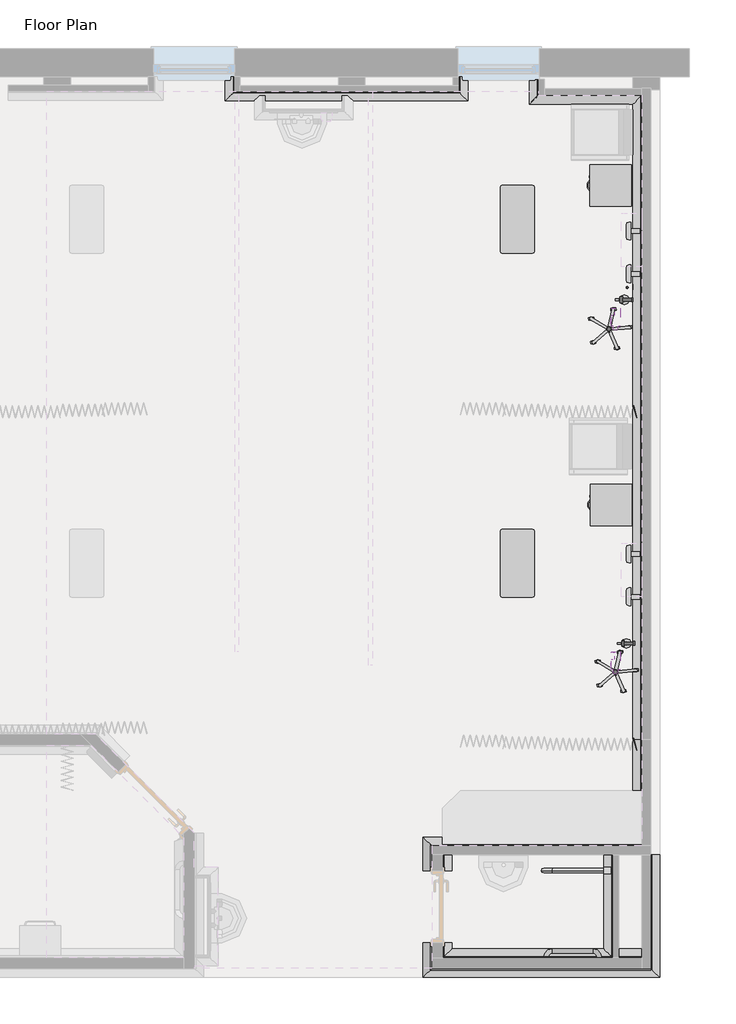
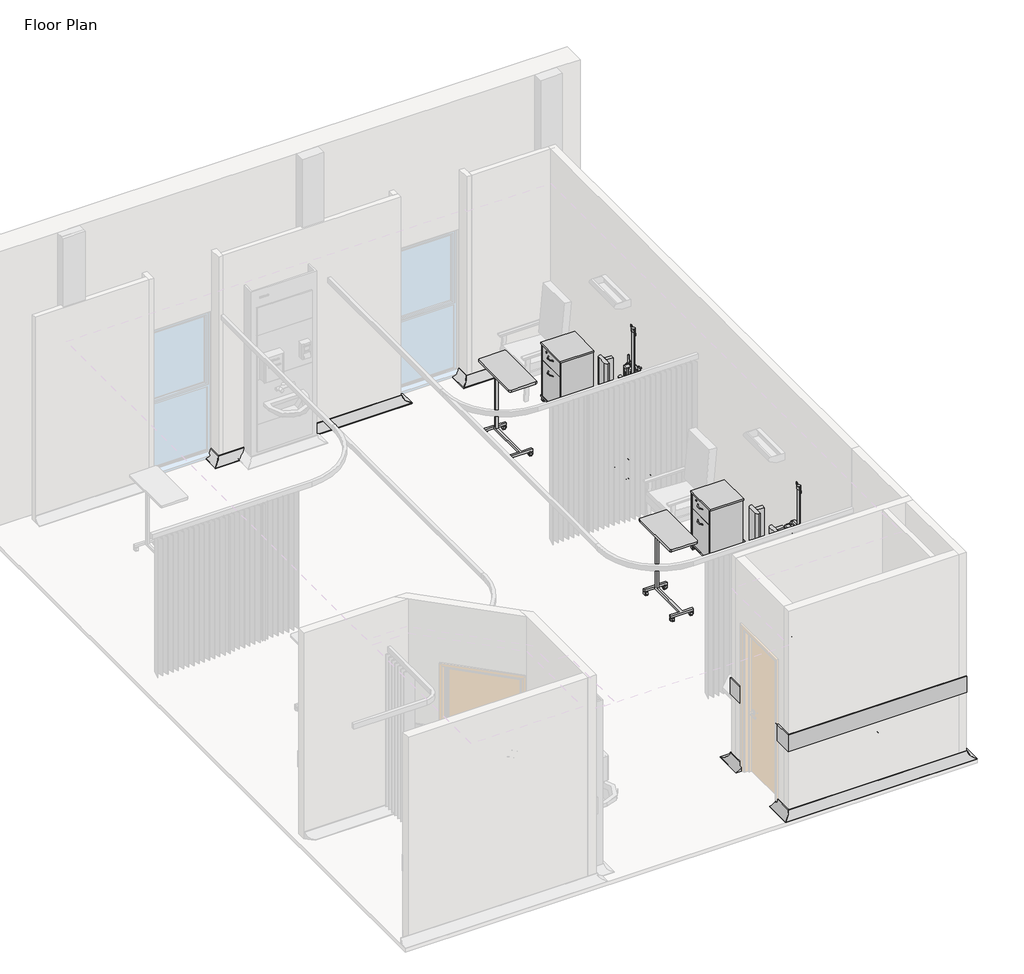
# One storey, part 3 of 3: 33 proxies.
"""IFC4 building model written with IfcOpenShell, lengths in millimetres."""

from ifc_helpers import new_model, si_unit, point, frame, frame_2d, origin, place, context, project, spatial, polyline, circle_curve, ellipse_curve, trimmed, segment, composite_curve, outline, extrude, transform, mapped, element, save
from ifc_brep_helpers import plane_surface, revolved_surface, advanced_brep
from components import generic_models_eee01dc3, generic_models_69a9413b, generic_models_23b3e7a1, generic_models_51914271, generic_models_60647dcf, generic_models_1c4e6ef4, generic_models_79982e2d, type_1_5029713c, type_1_b87888fc

model = new_model("IFC4")

# Units and contexts
model_context = context("Model", 3, world=origin())
ifc_project = project(units=[si_unit("LENGTHUNIT", "METRE", prefix="MILLI")], contexts=[model_context])

# Site, building, storey
site = spatial("IfcSite", under=ifc_project)
building = spatial("IfcBuilding", under=site)
storey = spatial("IfcBuildingStorey", under=building, Name="Floor Plan", Elevation=0.0)

# Proxies
placement = place(None, origin())
element("IfcBuildingElementProxy", 1, Name="Wall Sweeps", at=placement, inside=storey, context=model_context, shape_type="AdvancedBrep", body=[
    advanced_brep(
    [(46529.4797081, 118.6795604, 0.0), (46429.4797081, 118.6795604, 0.0), (46429.4797081, 118.6795604, 10.0), (46519.4797081, 118.6795604, 100.0), (46529.4797081, 118.6795604, 100.0), (46529.4797081, -49.8204396, 0.0), (46529.4797081, -49.8204396, 100.0), (46519.4797081, -59.8204396, 100.0), (46429.4797081, -149.8204396, 10.0), (46429.4797081, -149.8204396, 0.0)],
    [
        (0, 1),
        (1, 2),
        (2, 3, circle_curve(frame((46429.4797081, 118.6795604, 100.0), z_axis=(0.0, -1.0, 0.0), x_axis=(-1.0, 0.0, 0.0)), 90.0)),
        (3, 4),
        (4, 0),
        (5, 6),
        (6, 7),
        (7, 8, ellipse_curve(frame((46429.4797081, -149.8204396, 100.0), z_axis=(-0.7071067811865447, 0.7071067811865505, 0.0), x_axis=(-0.7071067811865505, -0.7071067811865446, 0.0)), 127.2792206, 90.0)),
        (8, 9),
        (9, 5),
        (0, 5),
        (9, 1),
        (8, 2),
        (7, 3),
        (6, 4),
    ],
    [
        plane_surface(frame((46428.9809518, 118.6795604, 0.0), z_axis=(0.0, 1.0, 0.0), x_axis=(0.0, 0.0, -1.0))),
        plane_surface(frame((46529.4797081, -49.8204396, -304.8), z_axis=(0.7071067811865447, -0.7071067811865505, 0.0), x_axis=(0.7071067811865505, 0.7071067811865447, 0.0))),
        plane_surface(frame((46529.4797081, 118.6795604, 0.0), z_axis=(0.0, 0.0, -1.0), x_axis=(0.0, -1.0, 0.0))),
        plane_surface(frame((46429.4797081, 118.6795604, 0.0), z_axis=(-1.0, 0.0, 0.0), x_axis=(0.0, -1.0, 0.0))),
        revolved_surface(polyline([(46339.4797081, -239.8204395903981, 100.0), (46339.4797081, 118.6795604, 100.0)]), (46429.4797081, 118.6795604, 100.0), (0.0, -1.0, 0.0)),
        plane_surface(frame((46519.4797081, 118.6795604, 100.0), z_axis=(0.0, 0.0, 1.0), x_axis=(0.0, -1.0, 0.0))),
        plane_surface(frame((46529.4797081, 118.6795604, 100.0), z_axis=(1.0, 0.0, 0.0), x_axis=(0.0, -1.0, 0.0))),
    ],
    [
        (0, [[1, 2, 3, 4, 5]]),
        (1, [[6, 7, 8, 9, 10]]),
        (2, [[-1, 11, -10, 12]]),
        (3, [[-2, -12, -9, 13]]),
        (4, [[-3, -13, -8, 14]]),
        (5, [[-4, -14, -7, 15]]),
        (6, [[-5, -15, -6, -11]]),
    ],
),
])
element("IfcBuildingElementProxy", 2, Name="Wall Sweeps", at=placement, inside=storey, context=model_context, shape_type="AdvancedBrep", body=[
    advanced_brep(
    [(46529.4797081, -49.8204396, 0.0), (46429.4797081, -149.8204396, 0.0), (46429.4797081, -149.8204396, 10.0), (46519.4797081, -59.8204396, 100.0), (46529.4797081, -49.8204396, 100.0), (49049.3271707, -49.8204396, 0.0), (49049.3271707, -49.8204396, 100.0), (49059.3271707, -59.8204396, 100.0), (49149.3271707, -149.8204396, 10.0), (49149.3271707, -149.8204396, 0.0), (46597.9797081, -49.8204396, 0.0)],
    [
        (0, 1),
        (1, 2),
        (2, 3, ellipse_curve(frame((46429.4797081, -149.8204396, 100.0), z_axis=(0.7071067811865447, -0.7071067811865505, 0.0), x_axis=(0.7071067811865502, 0.7071067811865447, 0.0)), 127.2792206, 90.0)),
        (3, 4),
        (4, 0),
        (5, 6),
        (6, 7),
        (7, 8, ellipse_curve(frame((49149.3271707, -149.8204396, 100.0), z_axis=(-0.7071067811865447, -0.7071067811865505, 0.0), x_axis=(0.7071067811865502, -0.7071067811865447, 0.0)), 127.2792206, 90.0)),
        (8, 9),
        (9, 5),
        (0, 10),
        (10, 5),
        (9, 1),
        (8, 2),
        (7, 3),
        (6, 4),
    ],
    [
        plane_surface(frame((46529.4797081, -49.8204396, -304.8), z_axis=(-0.7071067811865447, 0.7071067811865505, 0.0), x_axis=(0.7071067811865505, 0.7071067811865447, 0.0))),
        plane_surface(frame((49049.3271707, -49.8204396, -304.8), z_axis=(0.7071067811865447, 0.7071067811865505, 0.0), x_axis=(-0.7071067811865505, 0.7071067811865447, 0.0))),
        plane_surface(frame((46529.4797081, -49.8204396, 0.0), z_axis=(0.0, 0.0, -1.0), x_axis=(1.0, 0.0, 0.0))),
        plane_surface(frame((46429.4797081, -149.8204396, 0.0), z_axis=(0.0, -1.0, 0.0), x_axis=(1.0, 0.0, 0.0))),
        revolved_surface(polyline([(49239.3271706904, -239.8204396, 100.0), (46339.479708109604, -239.8204396, 100.0)]), (46529.4797081, -149.8204396, 100.0), (1.0, 0.0, 0.0)),
        plane_surface(frame((46519.4797081, -59.8204396, 100.0), z_axis=(0.0, 0.0, 1.0), x_axis=(1.0, 0.0, 0.0))),
        plane_surface(frame((46529.4797081, -49.8204396, 100.0), z_axis=(0.0, 1.0, 0.0), x_axis=(1.0, 0.0, 0.0))),
    ],
    [
        (0, [[1, 2, 3, 4, 5]]),
        (1, [[6, 7, 8, 9, 10]]),
        (2, [[-1, 11, 12, -10, 13]]),
        (3, [[-2, -13, -9, 14]]),
        (4, [[-3, -14, -8, 15]]),
        (5, [[-4, -15, -7, 16]]),
        (6, [[-5, -16, -6, -12, -11]]),
    ],
),
])
element("IfcBuildingElementProxy", 3, Name="Wall Sweeps", at=placement, inside=storey, context=model_context, shape_type="AdvancedBrep", body=[
    advanced_brep(
    [(49049.3271707, -49.8204396, 0.0), (49149.3271707, -149.8204396, 0.0), (49149.3271707, -149.8204396, 10.0), (49059.3271707, -59.8204396, 100.0), (49049.3271707, -49.8204396, 100.0), (49049.3271707, 118.6795604, 0.0), (49049.3271707, 118.6795604, 100.0), (49059.3271707, 118.6795604, 100.0), (49149.3271707, 118.6795604, 10.0), (49149.3271707, 118.6795604, 0.0), (49049.3271707, 18.6795604, 0.0)],
    [
        (0, 1),
        (1, 2),
        (2, 3, ellipse_curve(frame((49149.3271707, -149.8204396, 100.0), z_axis=(0.7071067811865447, 0.7071067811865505, 0.0), x_axis=(-0.7071067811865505, 0.7071067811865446, 0.0)), 127.2792206, 90.0)),
        (3, 4),
        (4, 0),
        (5, 6),
        (6, 7),
        (7, 8, circle_curve(frame((49149.3271707, 118.6795604, 100.0), z_axis=(0.0, -1.0, 0.0), x_axis=(1.0, 0.0, 0.0)), 90.0)),
        (8, 9),
        (9, 5),
        (0, 10),
        (10, 5),
        (9, 1),
        (8, 2),
        (7, 3),
        (6, 4),
    ],
    [
        plane_surface(frame((49049.3271707, -49.8204396, -304.8), z_axis=(-0.7071067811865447, -0.7071067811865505, 0.0), x_axis=(-0.7071067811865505, 0.7071067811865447, 0.0))),
        plane_surface(frame((48948.8284145, 118.6795604, 0.0), z_axis=(0.0, 1.0, 0.0), x_axis=(0.0, 0.0, 1.0))),
        plane_surface(frame((49049.3271707, -49.8204396, 0.0), z_axis=(0.0, 0.0, -1.0), x_axis=(0.0, 1.0, 0.0))),
        plane_surface(frame((49149.3271707, -149.8204396, 0.0), z_axis=(1.0, 0.0, 0.0), x_axis=(0.0, 1.0, 0.0))),
        revolved_surface(polyline([(49239.3271707, 118.6795604, 100.0), (49239.3271707, -239.8204395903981, 100.0)]), (49149.3271707, -49.8204396, 100.0), (0.0, 1.0, 0.0)),
        plane_surface(frame((49059.3271707, -59.8204396, 100.0), z_axis=(0.0, 0.0, 1.0), x_axis=(0.0, 1.0, 0.0))),
        plane_surface(frame((49049.3271707, -49.8204396, 100.0), z_axis=(-1.0, 0.0, 0.0), x_axis=(0.0, 1.0, 0.0))),
    ],
    [
        (0, [[1, 2, 3, 4, 5]]),
        (1, [[6, 7, 8, 9, 10]]),
        (2, [[-1, 11, 12, -10, 13]]),
        (3, [[-2, -13, -9, 14]]),
        (4, [[-3, -14, -8, 15]]),
        (5, [[-4, -15, -7, 16]]),
        (6, [[-5, -16, -6, -12, -11]]),
    ],
),
])
element("IfcBuildingElementProxy", 4, Name="Wall Sweeps", at=placement, inside=storey, context=model_context, shape_type="AdvancedBrep", body=[
    advanced_brep(
    [(49939.4797081, 87.4295604, 0.0), (49839.4797081, 87.4295604, 0.0), (49839.4797081, 87.4295604, 10.0), (49929.4797081, 87.4295604, 100.0), (49939.4797081, 87.4295604, 100.0), (49939.4797081, -86.8204396, 0.0), (49939.4797081, -86.8204396, 100.0), (49929.4797081, -96.8204396, 100.0), (49839.4797081, -186.8204396, 10.0), (49839.4797081, -186.8204396, 0.0)],
    [
        (0, 1),
        (1, 2),
        (2, 3, circle_curve(frame((49839.4797081, 87.4295604, 100.0), z_axis=(0.0, -1.0, 0.0), x_axis=(-1.0, 0.0, 0.0)), 90.0)),
        (3, 4),
        (4, 0),
        (5, 6),
        (6, 7),
        (7, 8, ellipse_curve(frame((49839.4797081, -186.8204396, 100.0), z_axis=(-0.7071067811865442, 0.7071067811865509, 0.0), x_axis=(-0.7071067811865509, -0.707106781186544, 0.0)), 127.2792206, 90.0)),
        (8, 9),
        (9, 5),
        (0, 5),
        (9, 1),
        (8, 2),
        (7, 3),
        (6, 4),
    ],
    [
        plane_surface(frame((49838.9809518, 87.4295604, 0.0), z_axis=(0.0, 1.0, 0.0), x_axis=(0.0, 0.0, -1.0))),
        plane_surface(frame((49939.4797081, -86.8204396, -304.8), z_axis=(0.7071067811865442, -0.7071067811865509, 0.0), x_axis=(0.7071067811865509, 0.7071067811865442, 0.0))),
        plane_surface(frame((49939.4797081, 87.4295604, 0.0), z_axis=(0.0, 0.0, -1.0), x_axis=(0.0, -1.0, 0.0))),
        plane_surface(frame((49839.4797081, 87.4295604, 0.0), z_axis=(-1.0, 0.0, 0.0), x_axis=(0.0, -1.0, 0.0))),
        revolved_surface(polyline([(49749.4797081, -276.82043959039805, 100.0), (49749.4797081, 87.4295604, 100.0)]), (49839.4797081, 87.4295604, 100.0), (0.0, -1.0, 0.0)),
        plane_surface(frame((49929.4797081, 87.4295604, 100.0), z_axis=(0.0, 0.0, 1.0), x_axis=(0.0, -1.0, 0.0))),
        plane_surface(frame((49939.4797081, 87.4295604, 100.0), z_axis=(1.0, 0.0, 0.0), x_axis=(0.0, -1.0, 0.0))),
    ],
    [
        (0, [[1, 2, 3, 4, 5]]),
        (1, [[6, 7, 8, 9, 10]]),
        (2, [[-1, 11, -10, 12]]),
        (3, [[-2, -12, -9, 13]]),
        (4, [[-3, -13, -8, 14]]),
        (5, [[-4, -14, -7, 15]]),
        (6, [[-5, -15, -6, -11]]),
    ],
),
])
element("IfcBuildingElementProxy", 5, Name="Wall Sweeps", at=placement, inside=storey, context=model_context, shape_type="AdvancedBrep", body=[
    advanced_brep(
    [(49939.4797081, -86.8204396, 0.0), (49839.4797081, -186.8204396, 0.0), (49839.4797081, -186.8204396, 10.0), (49929.4797081, -96.8204396, 100.0), (49939.4797081, -86.8204396, 100.0), (51148.7297081, -86.8204396, 0.0), (51148.7297081, -86.8204396, 100.0), (51148.7297081, -96.8204396, 100.0), (51148.7297081, -186.8204396, 10.0), (51148.7297081, -186.8204396, 0.0), (50007.9797081, -86.8204396, 0.0)],
    [
        (0, 1),
        (1, 2),
        (2, 3, ellipse_curve(frame((49839.4797081, -186.8204396, 100.0), z_axis=(0.7071067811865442, -0.7071067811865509, 0.0), x_axis=(0.7071067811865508, 0.7071067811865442, 0.0)), 127.2792206, 90.0)),
        (3, 4),
        (4, 0),
        (5, 6),
        (6, 7),
        (7, 8, circle_curve(frame((51148.7297081, -186.8204396, 100.0), z_axis=(-1.0, 0.0, 0.0), x_axis=(0.0, -1.0, 0.0)), 90.0)),
        (8, 9),
        (9, 5),
        (0, 10),
        (10, 5),
        (9, 1),
        (8, 2),
        (7, 3),
        (6, 4),
    ],
    [
        plane_surface(frame((49939.4797081, -86.8204396, -304.8), z_axis=(-0.7071067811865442, 0.7071067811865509, 0.0), x_axis=(0.7071067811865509, 0.7071067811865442, 0.0))),
        plane_surface(frame((51148.7297081, -86.8204396, -100.4987562), z_axis=(1.0, 0.0, 0.0), x_axis=(0.0, 1.0, 0.0))),
        plane_surface(frame((49939.4797081, -86.8204396, 0.0), z_axis=(0.0, 0.0, -1.0), x_axis=(1.0, 0.0, 0.0))),
        plane_surface(frame((49839.4797081, -186.8204396, 0.0), z_axis=(0.0, -1.0, 0.0), x_axis=(1.0, 0.0, 0.0))),
        revolved_surface(polyline([(51148.7297081, -276.8204396, 100.0), (49749.479708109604, -276.8204396, 100.0)]), (49939.4797081, -186.8204396, 100.0), (1.0, 0.0, 0.0)),
        plane_surface(frame((49929.4797081, -96.8204396, 100.0), z_axis=(0.0, 0.0, 1.0), x_axis=(1.0, 0.0, 0.0))),
        plane_surface(frame((49939.4797081, -86.8204396, 100.0), z_axis=(0.0, 1.0, 0.0), x_axis=(1.0, 0.0, 0.0))),
    ],
    [
        (0, [[1, 2, 3, 4, 5]]),
        (1, [[6, 7, 8, 9, 10]]),
        (2, [[-1, 11, 12, -10, 13]]),
        (3, [[-2, -13, -9, 14]]),
        (4, [[-3, -14, -8, 15]]),
        (5, [[-4, -15, -7, 16]]),
        (6, [[-5, -16, -6, -12, -11]]),
    ],
),
])
element("IfcBuildingElementProxy", 6, Name="Wall Sweeps", at=placement, inside=storey, context=model_context, shape_type="AdvancedBrep", body=[
    advanced_brep(
    [(51098.7297081, -7304.3204396, 0.0), (50998.7297081, -7304.3204396, 0.0), (50998.7297081, -7304.3204396, 10.0), (51088.7297081, -7304.3204396, 100.0), (51098.7297081, -7304.3204396, 100.0), (51098.7297081, -8493.5704396, 0.0), (51098.7297081, -8493.5704396, 100.0), (51088.7297081, -8493.5704396, 100.0), (50998.7297081, -8493.5704396, 10.0), (50998.7297081, -8493.5704396, 0.0), (51098.7297081, -8393.5704396, 0.0)],
    [
        (0, 1),
        (1, 2),
        (2, 3, circle_curve(frame((50998.7297081, -7304.3204396, 100.0), z_axis=(0.0, -1.0, 0.0), x_axis=(-1.0, 0.0, 0.0)), 90.0)),
        (3, 4),
        (4, 0),
        (5, 6),
        (6, 7),
        (7, 8, circle_curve(frame((50998.7297081, -8493.5704396, 100.0), z_axis=(0.0, 1.0, 0.0), x_axis=(-1.0, 0.0, 0.0)), 90.0)),
        (8, 9),
        (9, 5),
        (0, 10),
        (10, 5),
        (9, 1),
        (8, 2),
        (7, 3),
        (6, 4),
    ],
    [
        plane_surface(frame((51098.7297081, -7304.3204396, -304.8), z_axis=(0.0, 1.0, 0.0), x_axis=(1.0, 0.0, 0.0))),
        plane_surface(frame((50998.2309518, -8493.5704396, 0.0), z_axis=(0.0, -1.0, 0.0), x_axis=(0.0, 0.0, -1.0))),
        plane_surface(frame((51098.7297081, -7304.3204396, 0.0), z_axis=(0.0, 0.0, -1.0), x_axis=(0.0, -1.0, 0.0))),
        plane_surface(frame((50998.7297081, -7304.3204396, 0.0), z_axis=(-1.0, 0.0, 0.0), x_axis=(0.0, -1.0, 0.0))),
        revolved_surface(polyline([(50908.7297081, -8493.5704396, 100.0), (50908.7297081, -7304.3204396, 100.0)]), (50998.7297081, -7304.3204396, 100.0), (0.0, -1.0, 0.0)),
        plane_surface(frame((51088.7297081, -7304.3204396, 100.0), z_axis=(0.0, 0.0, 1.0), x_axis=(0.0, -1.0, 0.0))),
        plane_surface(frame((51098.7297081, -7304.3204396, 100.0), z_axis=(1.0, 0.0, 0.0), x_axis=(0.0, -1.0, 0.0))),
    ],
    [
        (0, [[1, 2, 3, 4, 5]]),
        (1, [[6, 7, 8, 9, 10]]),
        (2, [[-1, 11, 12, -10, 13]]),
        (3, [[-2, -13, -9, 14]]),
        (4, [[-3, -14, -8, 15]]),
        (5, [[-4, -15, -7, 16]]),
        (6, [[-5, -16, -6, -12, -11]]),
    ],
),
])
element("IfcBuildingElementProxy", 7, Name="Wall Sweeps", at=placement, inside=storey, context=model_context, shape_type="SweptSolid", body=[
    extrude(outline(composite_curve([segment(polyline([(0.0, 51098.7297081), (100.0, 51098.7297081), (100.0, 51088.7297081)]), True, "CONTINUOUS"), segment(trimmed(circle_curve(frame_2d((100.0, 50998.7297081)), 90.0), [point((100.0, 51088.7297081))], [point((10.0, 50998.7297081))], True, "CARTESIAN"), True, "CONTINUOUS"), segment(polyline([(10.0, 50998.7297081), (0.0, 50998.7297081), (0.0, 51098.7297081)]), True, "CONTINUOUS")], self_intersect=False)), frame((0.0, -7304.3204396, 0.0), z_axis=(0.0, 1.0, 0.0), x_axis=(0.0, 0.0, 1.0)), (0.0, 0.0, 1.0), 7295.0),
])
element("IfcBuildingElementProxy", 8, Name="Wall Sweeps", at=placement, inside=storey, context=model_context, shape_type="AdvancedBrep", body=[
    advanced_brep(
    [(48747.9797081, -9865.0704396, 0.0), (48647.9797081, -9965.0704396, 0.0), (48647.9797081, -9965.0704396, 10.0), (48737.9797081, -9875.0704396, 100.0), (48747.9797081, -9865.0704396, 100.0), (51198.7297081, -9865.0704396, 0.0), (51198.7297081, -9865.0704396, 100.0), (51208.7297081, -9875.0704396, 100.0), (51298.7297081, -9965.0704396, 10.0), (51298.7297081, -9965.0704396, 0.0), (51098.7297081, -9865.0704396, 0.0)],
    [
        (0, 1),
        (1, 2),
        (2, 3, ellipse_curve(frame((48647.9797081, -9965.0704396, 100.0), z_axis=(0.7071067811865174, -0.7071067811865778, 0.0), x_axis=(0.7071067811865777, 0.7071067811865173, 0.0)), 127.2792206, 90.0)),
        (3, 4),
        (4, 0),
        (5, 6),
        (6, 7),
        (7, 8, ellipse_curve(frame((51298.7297081, -9965.0704396, 100.0), z_axis=(-0.7071067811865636, -0.7071067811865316, 0.0), x_axis=(0.7071067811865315, -0.7071067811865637, 0.0)), 127.2792206, 90.0)),
        (8, 9),
        (9, 5),
        (4, 6),
        (5, 10),
        (10, 0),
        (3, 7),
        (2, 8),
        (1, 9),
    ],
    [
        plane_surface(frame((48747.9797081, -9865.0704396, -304.8), z_axis=(-0.7071067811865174, 0.7071067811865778, 0.0), x_axis=(0.7071067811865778, 0.7071067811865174, 0.0))),
        plane_surface(frame((51198.7297081, -9865.0704396, -304.8), z_axis=(0.7071067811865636, 0.7071067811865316, 0.0), x_axis=(-0.7071067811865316, 0.7071067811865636, 0.0))),
        plane_surface(frame((48747.9797081, -9865.0704396, 100.0), z_axis=(0.0, 1.0, 0.0), x_axis=(1.0, 0.0, 0.0))),
        plane_surface(frame((48737.9797081, -9875.0704396, 100.0), z_axis=(0.0, 0.0, 1.0), x_axis=(1.0, 0.0, 0.0))),
        revolved_surface(polyline([(51388.729708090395, -10055.0704396, 100.0), (48557.9797081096, -10055.0704396, 100.0)]), (48747.9797081, -9965.0704396, 100.0), (1.0, 0.0, 0.0)),
        plane_surface(frame((48647.9797081, -9965.0704396, 0.0), z_axis=(0.0, -1.0, 0.0), x_axis=(1.0, 0.0, 0.0))),
        plane_surface(frame((48747.9797081, -9865.0704396, 0.0), z_axis=(0.0, 0.0, -1.0), x_axis=(1.0, 0.0, 0.0))),
    ],
    [
        (0, [[1, 2, 3, 4, 5]]),
        (1, [[6, 7, 8, 9, 10]]),
        (2, [[-5, 11, -6, 12, 13]]),
        (3, [[-4, 14, -7, -11]]),
        (4, [[-3, 15, -8, -14]]),
        (5, [[-2, 16, -9, -15]]),
        (6, [[-1, -13, -12, -10, -16]]),
    ],
),
])
element("IfcBuildingElementProxy", 9, Name="Wall Sweeps", at=placement, inside=storey, context=model_context, shape_type="AdvancedBrep", body=[
    advanced_brep(
    [(48869.4797081, -9743.5704396, 0.0), (48869.4797081, -9743.5704396, 100.0), (48879.4797081, -9733.5704396, 100.0), (48969.4797081, -9643.5704396, 10.0), (48969.4797081, -9643.5704396, 0.0), (51098.7297081, -9743.5704396, 0.0), (51098.7297081, -9643.5704396, 0.0), (51098.7297081, -9643.5704396, 10.0), (51098.7297081, -9733.5704396, 100.0), (51098.7297081, -9743.5704396, 100.0)],
    [
        (0, 1),
        (1, 2),
        (2, 3, ellipse_curve(frame((48969.4797081, -9643.5704396, 100.0), z_axis=(0.7071067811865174, -0.7071067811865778, 0.0), x_axis=(0.7071067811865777, 0.7071067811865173, 0.0)), 127.2792206, 90.0)),
        (3, 4),
        (4, 0),
        (5, 6),
        (6, 7),
        (7, 8, circle_curve(frame((51098.7297081, -9643.5704396, 100.0), z_axis=(-1.0, 0.0, 0.0), x_axis=(0.0, 1.0, 0.0)), 90.0)),
        (8, 9),
        (9, 5),
        (4, 6),
        (5, 0),
        (3, 7),
        (2, 8),
        (1, 9),
    ],
    [
        plane_surface(frame((48869.4797081, -9743.5704396, -304.8), z_axis=(-0.7071067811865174, 0.7071067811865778, 0.0), x_axis=(0.7071067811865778, 0.7071067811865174, 0.0))),
        plane_surface(frame((51098.7297081, -9743.5704396, -100.4987562), z_axis=(1.0, 0.0, 0.0), x_axis=(0.0, 1.0, 0.0))),
        plane_surface(frame((48969.4797081, -9643.5704396, 0.0), z_axis=(0.0, 0.0, -1.0), x_axis=(1.0, 0.0, 0.0))),
        plane_surface(frame((48969.4797081, -9643.5704396, 10.0), z_axis=(0.0, 1.0, 0.0), x_axis=(1.0, 0.0, 0.0))),
        revolved_surface(polyline([(51098.7297081, -9553.5704396, 100.0), (48879.4797081, -9553.5704396, 100.0)]), (48869.4797081, -9643.5704396, 100.0), (1.0, 0.0, 0.0)),
        plane_surface(frame((48869.4797081, -9743.5704396, 100.0), z_axis=(0.0, 0.0, 1.0), x_axis=(1.0, 0.0, 0.0))),
        plane_surface(frame((48869.4797081, -9743.5704396, 0.0), z_axis=(0.0, -1.0, 0.0), x_axis=(1.0, 0.0, 0.0))),
    ],
    [
        (0, [[1, 2, 3, 4, 5]]),
        (1, [[6, 7, 8, 9, 10]]),
        (2, [[-5, 11, -6, 12]]),
        (3, [[-4, 13, -7, -11]]),
        (4, [[-3, 14, -8, -13]]),
        (5, [[-2, 15, -9, -14]]),
        (6, [[-1, -12, -10, -15]]),
    ],
),
])
element("IfcBuildingElementProxy", 10, Name="Wall Sweeps", at=placement, inside=storey, context=model_context, shape_type="SweptSolid", body=[
    extrude(outline(polyline([(48728.9797081, -9884.0704396), (48747.9797081, -9865.0704396), (51198.7297081, -9865.0704396), (51198.7297081, -9884.0704396), (48728.9797081, -9884.0704396)])), frame((0.0, 0.0, 965.0), z_axis=(0.0, 0.0, 1.0), x_axis=(1.0, 0.0, 0.0)), (0.0, 0.0, 1.0), 235.0),
])
element("IfcBuildingElementProxy", 11, Name="Wall Sweeps", at=placement, inside=storey, context=model_context, shape_type="AdvancedBrep", body=[
    advanced_brep(
    [(48747.9797081, -8768.9454396, 0.0), (48747.9797081, -8768.9454396, 100.0), (48737.9797081, -8768.9454396, 100.0), (48647.9797081, -8768.9454396, 10.0), (48647.9797081, -8768.9454396, 0.0), (48747.9797081, -8493.5704396, 0.0), (48647.9797081, -8393.5704396, 0.0), (48647.9797081, -8393.5704396, 10.0), (48737.9797081, -8483.5704396, 100.0), (48747.9797081, -8493.5704396, 100.0), (48747.9797081, -8593.5704396, 0.0)],
    [
        (0, 1),
        (1, 2),
        (2, 3, circle_curve(frame((48647.9797081, -8768.9454396, 100.0), z_axis=(0.0, 1.0, 0.0), x_axis=(-1.0, 0.0, 0.0)), 90.0)),
        (3, 4),
        (4, 0),
        (5, 6),
        (6, 7),
        (7, 8, ellipse_curve(frame((48647.9797081, -8393.5704396, 100.0), z_axis=(-0.7071067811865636, -0.7071067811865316, 0.0), x_axis=(-0.7071067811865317, 0.7071067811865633, 0.0)), 127.2792206, 90.0)),
        (8, 9),
        (9, 5),
        (0, 10),
        (10, 5),
        (9, 1),
        (8, 2),
        (7, 3),
        (6, 4),
    ],
    [
        plane_surface(frame((48647.4809518, -8768.9454396, 0.0), z_axis=(0.0, -1.0, 0.0), x_axis=(0.0, 0.0, 1.0))),
        plane_surface(frame((48747.9797081, -8493.5704396, 304.8), z_axis=(0.7071067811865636, 0.7071067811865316, 0.0), x_axis=(0.7071067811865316, -0.7071067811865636, 0.0))),
        plane_surface(frame((48747.9797081, -8768.9454396, 0.0), z_axis=(1.0, 0.0, 0.0), x_axis=(0.0, 1.0, 0.0))),
        plane_surface(frame((48747.9797081, -8768.9454396, 100.0), z_axis=(0.0, 0.0, 1.0), x_axis=(0.0, 1.0, 0.0))),
        revolved_surface(polyline([(48557.9797081, -8303.570439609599, 100.0), (48557.9797081, -8768.9454396, 100.0)]), (48647.9797081, -8768.9454396, 100.0), (0.0, 1.0, 0.0)),
        plane_surface(frame((48647.9797081, -8768.9454396, 10.0), z_axis=(-1.0, 0.0, 0.0), x_axis=(0.0, 1.0, 0.0))),
        plane_surface(frame((48647.9797081, -8768.9454396, 0.0), z_axis=(0.0, 0.0, -1.0), x_axis=(0.0, 1.0, 0.0))),
    ],
    [
        (0, [[1, 2, 3, 4, 5]]),
        (1, [[6, 7, 8, 9, 10]]),
        (2, [[-1, 11, 12, -10, 13]]),
        (3, [[-2, -13, -9, 14]]),
        (4, [[-3, -14, -8, 15]]),
        (5, [[-4, -15, -7, 16]]),
        (6, [[-5, -16, -6, -12, -11]]),
    ],
),
    advanced_brep(
    [(48747.9797081, -9865.0704396, 0.0), (48747.9797081, -9865.0704396, 100.0), (48737.9797081, -9875.0704396, 100.0), (48647.9797081, -9965.0704396, 10.0), (48647.9797081, -9965.0704396, 0.0), (48747.9797081, -9578.9454396, 0.0), (48647.9797081, -9578.9454396, 0.0), (48647.9797081, -9578.9454396, 10.0), (48737.9797081, -9578.9454396, 100.0), (48747.9797081, -9578.9454396, 100.0), (48747.9797081, -9743.5704396, 0.0)],
    [
        (0, 1),
        (1, 2),
        (2, 3, ellipse_curve(frame((48647.9797081, -9965.0704396, 100.0), z_axis=(-0.7071067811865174, 0.7071067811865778, 0.0), x_axis=(0.7071067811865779, 0.7071067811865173, 0.0)), 127.2792206, 90.0)),
        (3, 4),
        (4, 0),
        (5, 6),
        (6, 7),
        (7, 8, circle_curve(frame((48647.9797081, -9578.9454396, 100.0), z_axis=(0.0, -1.0, 0.0), x_axis=(-1.0, 0.0, 0.0)), 90.0)),
        (8, 9),
        (9, 5),
        (0, 10),
        (10, 5),
        (9, 1),
        (8, 2),
        (7, 3),
        (6, 4),
    ],
    [
        plane_surface(frame((48747.9797081, -9865.0704396, 304.8), z_axis=(0.7071067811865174, -0.7071067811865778, 0.0), x_axis=(0.7071067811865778, 0.7071067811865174, 0.0))),
        plane_surface(frame((48647.4809518, -9578.9454396, 0.0), z_axis=(0.0, 1.0, 0.0), x_axis=(0.0, 0.0, 1.0))),
        plane_surface(frame((48747.9797081, -9865.0704396, 0.0), z_axis=(1.0, 0.0, 0.0), x_axis=(0.0, 1.0, 0.0))),
        plane_surface(frame((48747.9797081, -9865.0704396, 100.0), z_axis=(0.0, 0.0, 1.0), x_axis=(0.0, 1.0, 0.0))),
        revolved_surface(polyline([(48557.9797081, -9578.9454396, 100.0), (48557.9797081, -10055.070439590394, 100.0)]), (48647.9797081, -9865.0704396, 100.0), (0.0, 1.0, 0.0)),
        plane_surface(frame((48647.9797081, -9965.0704396, 10.0), z_axis=(-1.0, 0.0, 0.0), x_axis=(0.0, 1.0, 0.0))),
        plane_surface(frame((48647.9797081, -9965.0704396, 0.0), z_axis=(0.0, 0.0, -1.0), x_axis=(0.0, 1.0, 0.0))),
    ],
    [
        (0, [[1, 2, 3, 4, 5]]),
        (1, [[6, 7, 8, 9, 10]]),
        (2, [[-1, 11, 12, -10, 13]]),
        (3, [[-2, -13, -9, 14]]),
        (4, [[-3, -14, -8, 15]]),
        (5, [[-4, -15, -7, 16]]),
        (6, [[-5, -16, -6, -12, -11]]),
    ],
),
])
element("IfcBuildingElementProxy", 12, Name="Wall Sweeps", at=placement, inside=storey, context=model_context, shape_type="AdvancedBrep", body=[
    advanced_brep(
    [(48869.4797081, -9743.5704396, 0.0), (48969.4797081, -9643.5704396, 0.0), (48969.4797081, -9643.5704396, 10.0), (48879.4797081, -9733.5704396, 100.0), (48869.4797081, -9743.5704396, 100.0), (48869.4797081, -9578.9454396, 0.0), (48869.4797081, -9578.9454396, 100.0), (48879.4797081, -9578.9454396, 100.0), (48969.4797081, -9578.9454396, 10.0), (48969.4797081, -9578.9454396, 0.0)],
    [
        (0, 1),
        (1, 2),
        (2, 3, ellipse_curve(frame((48969.4797081, -9643.5704396, 100.0), z_axis=(-0.7071067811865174, 0.7071067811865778, 0.0), x_axis=(0.7071067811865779, 0.7071067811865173, 0.0)), 127.2792206, 90.0)),
        (3, 4),
        (4, 0),
        (5, 6),
        (6, 7),
        (7, 8, circle_curve(frame((48969.4797081, -9578.9454396, 100.0), z_axis=(0.0, -1.0, 0.0), x_axis=(1.0, 0.0, 0.0)), 90.0)),
        (8, 9),
        (9, 5),
        (0, 5),
        (9, 1),
        (8, 2),
        (7, 3),
        (6, 4),
    ],
    [
        plane_surface(frame((48869.4797081, -9743.5704396, 304.8), z_axis=(0.7071067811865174, -0.7071067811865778, 0.0), x_axis=(0.7071067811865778, 0.7071067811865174, 0.0))),
        plane_surface(frame((48768.9809518, -9578.9454396, 0.0), z_axis=(0.0, 1.0, 0.0), x_axis=(0.0, 0.0, 1.0))),
        plane_surface(frame((48869.4797081, -9743.5704396, 0.0), z_axis=(0.0, 0.0, -1.0), x_axis=(0.0, 1.0, 0.0))),
        plane_surface(frame((48969.4797081, -9643.5704396, 0.0), z_axis=(1.0, 0.0, 0.0), x_axis=(0.0, 1.0, 0.0))),
        revolved_surface(polyline([(49059.4797081, -9553.570439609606, 100.0), (49059.4797081, -9733.5704396, 100.0)]), (48969.4797081, -9743.5704396, 100.0), (0.0, 1.0, 0.0)),
        plane_surface(frame((48879.4797081, -9733.5704396, 100.0), z_axis=(0.0, 0.0, 1.0), x_axis=(0.0, 1.0, 0.0))),
        plane_surface(frame((48869.4797081, -9743.5704396, 100.0), z_axis=(-1.0, 0.0, 0.0), x_axis=(0.0, 1.0, 0.0))),
    ],
    [
        (0, [[1, 2, 3, 4, 5]]),
        (1, [[6, 7, 8, 9, 10]]),
        (2, [[-1, 11, -10, 12]]),
        (3, [[-2, -12, -9, 13]]),
        (4, [[-3, -13, -8, 14]]),
        (5, [[-4, -14, -7, 15]]),
        (6, [[-5, -15, -6, -11]]),
    ],
),
    advanced_brep(
    [(48869.4797081, -8768.9454396, 0.0), (48969.4797081, -8768.9454396, 0.0), (48969.4797081, -8768.9454396, 10.0), (48879.4797081, -8768.9454396, 100.0), (48869.4797081, -8768.9454396, 100.0), (48869.4797081, -8593.5704396, 0.0), (48869.4797081, -8593.5704396, 100.0), (48879.4797081, -8593.5704396, 100.0), (48969.4797081, -8593.5704396, 10.0), (48969.4797081, -8593.5704396, 0.0)],
    [
        (0, 1),
        (1, 2),
        (2, 3, circle_curve(frame((48969.4797081, -8768.9454396, 100.0), z_axis=(0.0, 1.0, 0.0), x_axis=(1.0, 0.0, 0.0)), 90.0)),
        (3, 4),
        (4, 0),
        (5, 6),
        (6, 7),
        (7, 8, circle_curve(frame((48969.4797081, -8593.5704396, 100.0), z_axis=(0.0, -1.0, 0.0), x_axis=(1.0, 0.0, 0.0)), 90.0)),
        (8, 9),
        (9, 5),
        (0, 5),
        (9, 1),
        (8, 2),
        (7, 3),
        (6, 4),
    ],
    [
        plane_surface(frame((48768.9809518, -8768.9454396, 0.0), z_axis=(0.0, -1.0, 0.0), x_axis=(0.0, 0.0, 1.0))),
        plane_surface(frame((48768.9809518, -8593.5704396, 0.0), z_axis=(0.0, 1.0, 0.0), x_axis=(0.0, 0.0, 1.0))),
        plane_surface(frame((48869.4797081, -8768.9454396, 0.0), z_axis=(0.0, 0.0, -1.0), x_axis=(0.0, 1.0, 0.0))),
        plane_surface(frame((48969.4797081, -8768.9454396, 0.0), z_axis=(1.0, 0.0, 0.0), x_axis=(0.0, 1.0, 0.0))),
        revolved_surface(polyline([(49059.4797081, -8593.5704396, 100.0), (49059.4797081, -8768.9454396, 100.0)]), (48969.4797081, -8768.9454396, 100.0), (0.0, 1.0, 0.0)),
        plane_surface(frame((48879.4797081, -8768.9454396, 100.0), z_axis=(0.0, 0.0, 1.0), x_axis=(0.0, 1.0, 0.0))),
        plane_surface(frame((48869.4797081, -8768.9454396, 100.0), z_axis=(-1.0, 0.0, 0.0), x_axis=(0.0, 1.0, 0.0))),
    ],
    [
        (0, [[1, 2, 3, 4, 5]]),
        (1, [[6, 7, 8, 9, 10]]),
        (2, [[-1, 11, -10, 12]]),
        (3, [[-2, -12, -9, 13]]),
        (4, [[-3, -13, -8, 14]]),
        (5, [[-4, -14, -7, 15]]),
        (6, [[-5, -15, -6, -11]]),
    ],
),
])
element("IfcBuildingElementProxy", 13, Name="Wall Sweeps", at=placement, inside=storey, context=model_context, shape_type="SweptSolid", body=[
    extrude(outline(polyline([(48747.9797081, -8768.9454396), (48728.9797081, -8768.9454396), (48728.9797081, -8493.5704396), (48747.9797081, -8493.5704396), (48747.9797081, -8768.9454396)])), frame((0.0, 0.0, 965.0), z_axis=(0.0, 0.0, 1.0), x_axis=(1.0, 0.0, 0.0)), (0.0, 0.0, 1.0), 235.0),
    extrude(outline(polyline([(48747.9797081, -9865.0704396), (48728.9797081, -9884.0704396), (48728.9797081, -9578.9454396), (48747.9797081, -9578.9454396), (48747.9797081, -9865.0704396)])), frame((0.0, 0.0, 965.0), z_axis=(0.0, 0.0, 1.0), x_axis=(1.0, 0.0, 0.0)), (0.0, 0.0, 1.0), 235.0),
])
element("IfcBuildingElementProxy", 14, Name="Wall Sweeps", at=placement, inside=storey, context=model_context, shape_type="SweptSolid", body=[
    extrude(outline(composite_curve([segment(polyline([(0.0, 50774.4797081), (100.0, 50774.4797081), (100.0, 50764.4797081)]), True, "CONTINUOUS"), segment(trimmed(circle_curve(frame_2d((100.0, 50674.4797081)), 90.0), [point((100.0, 50764.4797081))], [point((10.0, 50674.4797081))], True, "CARTESIAN"), True, "CONTINUOUS"), segment(polyline([(10.0, 50674.4797081), (0.0, 50674.4797081), (0.0, 50774.4797081)]), True, "CONTINUOUS")], self_intersect=False)), frame((0.0, -9743.5704396, 0.0), z_axis=(0.0, 1.0, 0.0), x_axis=(0.0, 0.0, 1.0)), (0.0, 0.0, 1.0), 1150.0),
])
element("IfcBuildingElementProxy", 15, Name="Wall Sweeps", at=placement, inside=storey, context=model_context, shape_type="AdvancedBrep", body=[
    advanced_brep(
    [(51198.7297081, -8493.5704396, 0.0), (51198.7297081, -8393.5704396, 0.0), (51198.7297081, -8393.5704396, 10.0), (51198.7297081, -8483.5704396, 100.0), (51198.7297081, -8493.5704396, 100.0), (48747.9797081, -8493.5704396, 0.0), (48747.9797081, -8493.5704396, 100.0), (48737.9797081, -8483.5704396, 100.0), (48647.9797081, -8393.5704396, 10.0), (48647.9797081, -8393.5704396, 0.0)],
    [
        (0, 1),
        (1, 2),
        (2, 3, circle_curve(frame((51198.7297081, -8393.5704396, 100.0), z_axis=(-1.0, 0.0, 0.0), x_axis=(0.0, 1.0, 0.0)), 90.0)),
        (3, 4),
        (4, 0),
        (5, 6),
        (6, 7),
        (7, 8, ellipse_curve(frame((48647.9797081, -8393.5704396, 100.0), z_axis=(0.7071067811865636, 0.7071067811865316, 0.0), x_axis=(-0.7071067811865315, 0.7071067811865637, 0.0)), 127.2792206, 90.0)),
        (8, 9),
        (9, 5),
        (4, 6),
        (5, 0),
        (3, 7),
        (2, 8),
        (1, 9),
    ],
    [
        plane_surface(frame((51198.7297081, -8493.5704396, -100.4987562), z_axis=(1.0, 0.0, 0.0), x_axis=(0.0, -1.0, 0.0))),
        plane_surface(frame((48747.9797081, -8493.5704396, -304.8), z_axis=(-0.7071067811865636, -0.7071067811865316, 0.0), x_axis=(0.7071067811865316, -0.7071067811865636, 0.0))),
        plane_surface(frame((51198.7297081, -8493.5704396, 100.0), z_axis=(0.0, -1.0, 0.0), x_axis=(-1.0, 0.0, 0.0))),
        plane_surface(frame((51198.7297081, -8483.5704396, 100.0), z_axis=(0.0, 0.0, 1.0), x_axis=(-1.0, 0.0, 0.0))),
        revolved_surface(polyline([(48557.979708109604, -8303.5704396, 100.0), (51198.7297081, -8303.5704396, 100.0)]), (51198.7297081, -8393.5704396, 100.0), (-1.0, 0.0, 0.0)),
        plane_surface(frame((51198.7297081, -8393.5704396, 0.0), z_axis=(0.0, 1.0, 0.0), x_axis=(-1.0, 0.0, 0.0))),
        plane_surface(frame((51198.7297081, -8493.5704396, 0.0), z_axis=(0.0, 0.0, -1.0), x_axis=(-1.0, 0.0, 0.0))),
    ],
    [
        (0, [[1, 2, 3, 4, 5]]),
        (1, [[6, 7, 8, 9, 10]]),
        (2, [[-5, 11, -6, 12]]),
        (3, [[-4, 13, -7, -11]]),
        (4, [[-3, 14, -8, -13]]),
        (5, [[-2, 15, -9, -14]]),
        (6, [[-1, -12, -10, -15]]),
    ],
),
])
element("IfcBuildingElementProxy", 16, Name="Wall Sweeps", at=placement, inside=storey, context=model_context, shape_type="AdvancedBrep", body=[
    advanced_brep(
    [(51198.7297081, -8593.5704396, 0.0), (51198.7297081, -8593.5704396, 100.0), (51208.7297081, -8593.5704396, 100.0), (51298.7297081, -8593.5704396, 10.0), (51298.7297081, -8593.5704396, 0.0), (51198.7297081, -9865.0704396, 0.0), (51298.7297081, -9965.0704396, 0.0), (51298.7297081, -9965.0704396, 10.0), (51208.7297081, -9875.0704396, 100.0), (51198.7297081, -9865.0704396, 100.0)],
    [
        (0, 1),
        (1, 2),
        (2, 3, circle_curve(frame((51298.7297081, -8593.5704396, 100.0), z_axis=(0.0, -1.0, 0.0), x_axis=(1.0, 0.0, 0.0)), 90.0)),
        (3, 4),
        (4, 0),
        (5, 6),
        (6, 7),
        (7, 8, ellipse_curve(frame((51298.7297081, -9965.0704396, 100.0), z_axis=(0.7071067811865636, 0.7071067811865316, 0.0), x_axis=(0.7071067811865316, -0.7071067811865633, 0.0)), 127.2792206, 90.0)),
        (8, 9),
        (9, 5),
        (0, 5),
        (9, 1),
        (8, 2),
        (7, 3),
        (6, 4),
    ],
    [
        plane_surface(frame((51098.2309518, -8593.5704396, 0.0), z_axis=(0.0, 1.0, 0.0), x_axis=(0.0, 0.0, -1.0))),
        plane_surface(frame((51198.7297081, -9865.0704396, 304.8), z_axis=(-0.7071067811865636, -0.7071067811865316, 0.0), x_axis=(-0.7071067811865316, 0.7071067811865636, 0.0))),
        plane_surface(frame((51198.7297081, -8593.5704396, 0.0), z_axis=(-1.0, 0.0, 0.0), x_axis=(0.0, -1.0, 0.0))),
        plane_surface(frame((51198.7297081, -8593.5704396, 100.0), z_axis=(0.0, 0.0, 1.0), x_axis=(0.0, -1.0, 0.0))),
        revolved_surface(polyline([(51388.7297081, -10055.070439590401, 100.0), (51388.7297081, -8593.5704396, 100.0)]), (51298.7297081, -8593.5704396, 100.0), (0.0, -1.0, 0.0)),
        plane_surface(frame((51298.7297081, -8593.5704396, 10.0), z_axis=(1.0, 0.0, 0.0), x_axis=(0.0, -1.0, 0.0))),
        plane_surface(frame((51298.7297081, -8593.5704396, 0.0), z_axis=(0.0, 0.0, -1.0), x_axis=(0.0, -1.0, 0.0))),
    ],
    [
        (0, [[1, 2, 3, 4, 5]]),
        (1, [[6, 7, 8, 9, 10]]),
        (2, [[-1, 11, -10, 12]]),
        (3, [[-2, -12, -9, 13]]),
        (4, [[-3, -13, -8, 14]]),
        (5, [[-4, -14, -7, 15]]),
        (6, [[-5, -15, -6, -11]]),
    ],
),
])
generic_models_shape = generic_models_eee01dc3(model_context)
element("IfcBuildingElementProxy", 17, Name="BIMHealth-Table_Overbed-LOD2A-v1 : BIMHealth-Table_Overbed-LOD2A-v1", ObjectType="BIMHealth-Table_Overbed-LOD2A-v1 : BIMHealth-Table_Overbed-LOD2A-v1", at=placement, inside=storey, context=model_context, shape_type="MappedRepresentation", body=[
    mapped(generic_models_shape, transform((49893.2166833, -4946.5704396, 0.0), x_axis=(0.0, -1.0, 0.0), y_axis=(1.0, 0.0, 0.0), z_axis=(0.0, 0.0, 1.0))),
])
element("IfcBuildingElementProxy", 18, Name="BIMHealth-Table_Overbed-LOD2A-v1 : BIMHealth-Table_Overbed-LOD2A-v1", ObjectType="BIMHealth-Table_Overbed-LOD2A-v1 : BIMHealth-Table_Overbed-LOD2A-v1", at=placement, inside=storey, context=model_context, shape_type="MappedRepresentation", body=[
    mapped(generic_models_shape, transform((49893.2166833, -1096.5704396, 0.0), x_axis=(0.0, -1.0, 0.0), y_axis=(1.0, 0.0, 0.0), z_axis=(0.0, 0.0, 1.0))),
])
generic_models_2_shape = generic_models_69a9413b(model_context)
element("IfcBuildingElementProxy", 19, Name="BIMHealth-Drip_Stand-LOD2A-v1 : BIMHealth-Drip_Stand-LOD2A-v1", ObjectType="BIMHealth-Drip_Stand-LOD2A-v1 : BIMHealth-Drip_Stand-LOD2A-v1", at=placement, inside=storey, context=model_context, shape_type="MappedRepresentation", body=[
    mapped(generic_models_2_shape, transform((50802.4369618, -6545.7269248, 0.0), x_axis=(-0.08715574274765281, 0.9961946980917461, 0.0), y_axis=(-0.9961946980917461, -0.08715574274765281, 0.0), z_axis=(0.0, 0.0, 1.0))),
])
element("IfcBuildingElementProxy", 20, Name="BIMHealth-Drip_Stand-LOD2A-v1 : BIMHealth-Drip_Stand-LOD2A-v1", ObjectType="BIMHealth-Drip_Stand-LOD2A-v1 : BIMHealth-Drip_Stand-LOD2A-v1", at=placement, inside=storey, context=model_context, shape_type="MappedRepresentation", body=[
    mapped(generic_models_2_shape, transform((50729.5379258, -2706.8991358, 0.0), x_axis=(-0.08715574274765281, 0.9961946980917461, 0.0), y_axis=(-0.9961946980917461, -0.08715574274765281, 0.0), z_axis=(0.0, 0.0, 1.0))),
])
generic_models_3_shape = generic_models_23b3e7a1(model_context)
element("IfcBuildingElementProxy", 21, Name="BIMHealth-IV_Pump-LOD2A-v1 : BIMHealth-IV_Pump-LOD2A-v1", ObjectType="BIMHealth-IV_Pump-LOD2A-v1 : BIMHealth-IV_Pump-LOD2A-v1", at=placement, inside=storey, context=model_context, shape_type="MappedRepresentation", body=[
    mapped(generic_models_3_shape, transform((50856.4444167, -6522.8420776, 0.0), x_axis=(0.0, 1.0, 0.0), y_axis=(-1.0, 0.0, 0.0), z_axis=(0.0, 0.0, 1.0))),
])
element("IfcBuildingElementProxy", 22, Name="BIMHealth-IV_Pump-LOD2A-v1 : BIMHealth-IV_Pump-LOD2A-v1", ObjectType="BIMHealth-IV_Pump-LOD2A-v1 : BIMHealth-IV_Pump-LOD2A-v1", at=placement, inside=storey, context=model_context, shape_type="MappedRepresentation", body=[
    mapped(generic_models_3_shape, transform((50856.4444167, -2672.8420776, 0.0), x_axis=(0.0, 1.0, 0.0), y_axis=(-1.0, 0.0, 0.0), z_axis=(0.0, 0.0, 1.0))),
])
generic_models_4_shape = generic_models_51914271(model_context)
element("IfcBuildingElementProxy", 23, Name="BIMHealth-Locker_Bedside-LOD2A-v1 : BIMHealth-Locker_Bedside-LOD2A-v1", ObjectType="BIMHealth-Locker_Bedside-LOD2A-v1 : BIMHealth-Locker_Bedside-LOD2A-v1", at=placement, inside=storey, context=model_context, shape_type="MappedRepresentation", body=[
    mapped(generic_models_4_shape, transform((50979.4477484, -4399.2326301, 0.0), x_axis=(0.0, -1.0, 0.0), y_axis=(1.0, 0.0, 0.0), z_axis=(0.0, 0.0, 1.0))),
])
element("IfcBuildingElementProxy", 24, Name="BIMHealth-Locker_Bedside-LOD2A-v1 : BIMHealth-Locker_Bedside-LOD2A-v1", ObjectType="BIMHealth-Locker_Bedside-LOD2A-v1 : BIMHealth-Locker_Bedside-LOD2A-v1", at=placement, inside=storey, context=model_context, shape_type="MappedRepresentation", body=[
    mapped(generic_models_4_shape, transform((50973.7297081, -823.5704396, 0.0), x_axis=(0.0, -1.0, 0.0), y_axis=(1.0, 0.0, 0.0), z_axis=(0.0, 0.0, 1.0))),
])
generic_models_5_shape = generic_models_60647dcf(model_context)
element("IfcBuildingElementProxy", 25, Name="BIMHealth-Flowmeter_Oxygen-LOD2A-v1 : BIMHealth-Flowmeter_Oxygen-LOD2A-v1", ObjectType="BIMHealth-Flowmeter_Oxygen-LOD2A-v1 : BIMHealth-Flowmeter_Oxygen-LOD2A-v1", at=placement, inside=storey, context=model_context, shape_type="MappedRepresentation", body=[
    mapped(generic_models_5_shape, transform((50935.7845529, -2240.5704396, 0.0), x_axis=(0.0, 1.0, 0.0), y_axis=(-1.0, 0.0, 0.0), z_axis=(0.0, 0.0, 1.0))),
])
generic_models_6_shape = generic_models_1c4e6ef4(model_context)
element("IfcBuildingElementProxy", 26, Name="BIMHealth-Flowmeter_Suction-LOD2A-v1 : BIMHealth-Flowmeter_Suction-LOD2A-v1", ObjectType="BIMHealth-Flowmeter_Suction-LOD2A-v1 : BIMHealth-Flowmeter_Suction-LOD2A-v1", at=placement, inside=storey, context=model_context, shape_type="MappedRepresentation", body=[
    mapped(generic_models_6_shape, transform((50904.4921997, -6226.0704396, 0.0), x_axis=(0.0, -1.0, 0.0), y_axis=(1.0, 0.0, 0.0), z_axis=(0.0, 0.0, 1.0))),
])
element("IfcBuildingElementProxy", 27, Name="BIMHealth-Flowmeter_Suction-LOD2A-v1 : BIMHealth-Flowmeter_Suction-LOD2A-v1", ObjectType="BIMHealth-Flowmeter_Suction-LOD2A-v1 : BIMHealth-Flowmeter_Suction-LOD2A-v1", at=placement, inside=storey, context=model_context, shape_type="MappedRepresentation", body=[
    mapped(generic_models_6_shape, transform((50883.7297081, -2379.3204396, 0.0), x_axis=(0.0, -1.0, 0.0), y_axis=(1.0, 0.0, 0.0), z_axis=(0.0, 0.0, 1.0))),
])
generic_models_7_shape = generic_models_79982e2d(model_context)
element("IfcBuildingElementProxy", 28, Name="BIMHealth-Grab_Rail_Drop_Down-LOD2A-v1 : RIG02_Grabrail horizontal", ObjectType="BIMHealth-Grab_Rail_Drop_Down-LOD2A-v1 : RIG02_Grabrail horizontal", at=placement, inside=storey, context=model_context, shape_type="MappedRepresentation", body=[
    mapped(generic_models_7_shape, transform((50808.7297081, -8893.5704396, 0.0), x_axis=(0.0, 1.0, 0.0), y_axis=(-1.0, 0.0, 0.0), z_axis=(0.0, 0.0, 1.0))),
])
type_1_shape = type_1_5029713c(model_context)
element("IfcBuildingElementProxy", 29, Name="BIMHealth-Grab_Rail_Horizontal-LOD2A-v1 : Type 1", ObjectType="BIMHealth-Grab_Rail_Horizontal-LOD2A-v1 : Type 1", at=placement, inside=storey, context=model_context, shape_type="MappedRepresentation", body=[
    mapped(type_1_shape, transform((50197.9797081, -9804.3204396, 0.0), x_axis=(1.0, 0.0, 0.0), y_axis=(0.0, 1.0, 0.0), z_axis=(0.0, 0.0, 1.0))),
])
type_1_2_shape = type_1_b87888fc(model_context)
element("IfcBuildingElementProxy", 30, Name="BIMHealth-Bed_Vertical_Bumper-LOD2A-v1 : Type 1", ObjectType="BIMHealth-Bed_Vertical_Bumper-LOD2A-v1 : Type 1", at=placement, inside=storey, context=model_context, shape_type="MappedRepresentation", body=[
    mapped(type_1_2_shape, transform((51148.7297081, -5829.3204396, 0.0), x_axis=(0.0, 1.0, 0.0), y_axis=(-1.0, 0.0, 0.0), z_axis=(0.0, 0.0, 1.0))),
])
element("IfcBuildingElementProxy", 31, Name="BIMHealth-Bed_Vertical_Bumper-LOD2A-v1 : Type 1", ObjectType="BIMHealth-Bed_Vertical_Bumper-LOD2A-v1 : Type 1", at=placement, inside=storey, context=model_context, shape_type="MappedRepresentation", body=[
    mapped(type_1_2_shape, transform((51148.7297081, -5349.3204396, 0.0), x_axis=(0.0, 1.0, 0.0), y_axis=(-1.0, 0.0, 0.0), z_axis=(0.0, 0.0, 1.0))),
])
element("IfcBuildingElementProxy", 32, Name="BIMHealth-Bed_Vertical_Bumper-LOD2A-v1 : Type 1", ObjectType="BIMHealth-Bed_Vertical_Bumper-LOD2A-v1 : Type 1", at=placement, inside=storey, context=model_context, shape_type="MappedRepresentation", body=[
    mapped(type_1_2_shape, transform((51148.7297081, -1734.3204396, 0.0), x_axis=(0.0, 1.0, 0.0), y_axis=(-1.0, 0.0, 0.0), z_axis=(0.0, 0.0, 1.0))),
])
element("IfcBuildingElementProxy", 33, Name="BIMHealth-Bed_Vertical_Bumper-LOD2A-v1 : Type 1", ObjectType="BIMHealth-Bed_Vertical_Bumper-LOD2A-v1 : Type 1", at=placement, inside=storey, context=model_context, shape_type="MappedRepresentation", body=[
    mapped(type_1_2_shape, transform((51148.7297081, -2214.3204396, 0.0), x_axis=(0.0, 1.0, 0.0), y_axis=(-1.0, 0.0, 0.0), z_axis=(0.0, 0.0, 1.0))),
])

save(model, "model.ifc")
